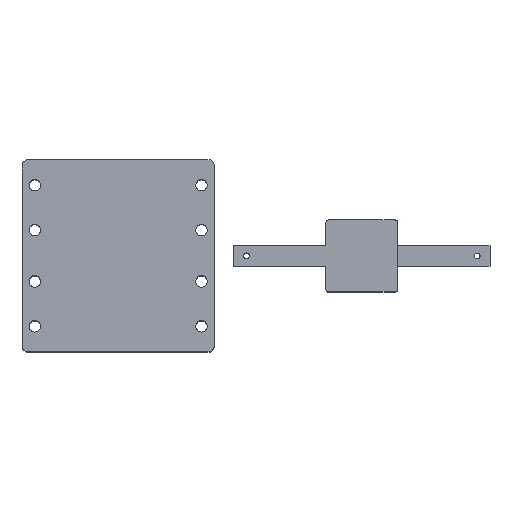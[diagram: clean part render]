
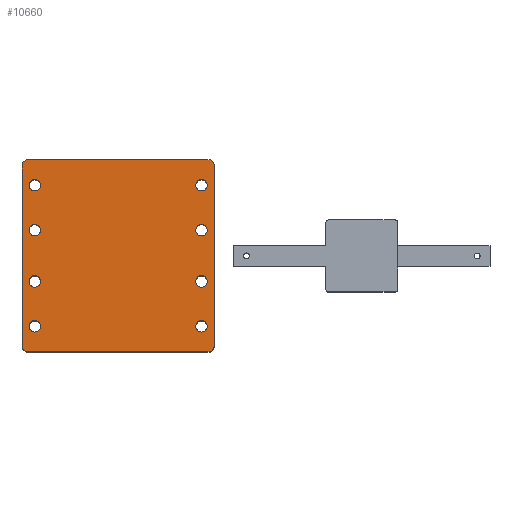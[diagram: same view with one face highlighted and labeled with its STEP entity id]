
A CAD part, top view. The second image highlights one B-rep face of the part: STEP entity #10660.
In plain terms, the highlighted planar face has unit normal (0, 0, 1).
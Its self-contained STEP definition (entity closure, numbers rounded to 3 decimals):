
#10400 = VERTEX_POINT('',#10401);
#10401 = CARTESIAN_POINT('',(-70.,-75.,12.));
#10407 = EDGE_CURVE('',#10400,#10408,#10410,.T.);
#10408 = VERTEX_POINT('',#10409);
#10409 = CARTESIAN_POINT('',(70.,-75.,12.));
#10410 = LINE('',#10411,#10412);
#10411 = CARTESIAN_POINT('',(-70.,-75.,12.));
#10412 = VECTOR('',#10413,1.);
#10413 = DIRECTION('',(1.,0.,0.));
#10440 = VERTEX_POINT('',#10441);
#10441 = CARTESIAN_POINT('',(-75.,-70.,12.));
#10447 = EDGE_CURVE('',#10440,#10400,#10448,.T.);
#10448 = CIRCLE('',#10449,5.);
#10449 = AXIS2_PLACEMENT_3D('',#10450,#10451,#10452);
#10450 = CARTESIAN_POINT('',(-70.,-70.,12.));
#10451 = DIRECTION('',(0.,0.,1.));
#10452 = DIRECTION('',(1.,0.,0.));
#10471 = EDGE_CURVE('',#10408,#10472,#10474,.T.);
#10472 = VERTEX_POINT('',#10473);
#10473 = CARTESIAN_POINT('',(75.,-70.,12.));
#10474 = CIRCLE('',#10475,5.);
#10475 = AXIS2_PLACEMENT_3D('',#10476,#10477,#10478);
#10476 = CARTESIAN_POINT('',(70.,-70.,12.));
#10477 = DIRECTION('',(0.,0.,1.));
#10478 = DIRECTION('',(1.,0.,0.));
#10660 = ADVANCED_FACE('',(#10661,#10706,#10717,#10728,#10739,#10750,
    #10761,#10772,#10783),#10794,.T.);
#10661 = FACE_BOUND('',#10662,.T.);
#10662 = EDGE_LOOP('',(#10663,#10664,#10665,#10673,#10682,#10690,#10699,
    #10705));
#10663 = ORIENTED_EDGE('',*,*,#10407,.T.);
#10664 = ORIENTED_EDGE('',*,*,#10471,.T.);
#10665 = ORIENTED_EDGE('',*,*,#10666,.T.);
#10666 = EDGE_CURVE('',#10472,#10667,#10669,.T.);
#10667 = VERTEX_POINT('',#10668);
#10668 = CARTESIAN_POINT('',(75.,70.,12.));
#10669 = LINE('',#10670,#10671);
#10670 = CARTESIAN_POINT('',(75.,-70.,12.));
#10671 = VECTOR('',#10672,1.);
#10672 = DIRECTION('',(0.,1.,0.));
#10673 = ORIENTED_EDGE('',*,*,#10674,.T.);
#10674 = EDGE_CURVE('',#10667,#10675,#10677,.T.);
#10675 = VERTEX_POINT('',#10676);
#10676 = CARTESIAN_POINT('',(70.,75.,12.));
#10677 = CIRCLE('',#10678,5.);
#10678 = AXIS2_PLACEMENT_3D('',#10679,#10680,#10681);
#10679 = CARTESIAN_POINT('',(70.,70.,12.));
#10680 = DIRECTION('',(0.,0.,1.));
#10681 = DIRECTION('',(1.,0.,0.));
#10682 = ORIENTED_EDGE('',*,*,#10683,.T.);
#10683 = EDGE_CURVE('',#10675,#10684,#10686,.T.);
#10684 = VERTEX_POINT('',#10685);
#10685 = CARTESIAN_POINT('',(-70.,75.,12.));
#10686 = LINE('',#10687,#10688);
#10687 = CARTESIAN_POINT('',(70.,75.,12.));
#10688 = VECTOR('',#10689,1.);
#10689 = DIRECTION('',(-1.,0.,0.));
#10690 = ORIENTED_EDGE('',*,*,#10691,.T.);
#10691 = EDGE_CURVE('',#10684,#10692,#10694,.T.);
#10692 = VERTEX_POINT('',#10693);
#10693 = CARTESIAN_POINT('',(-75.,70.,12.));
#10694 = CIRCLE('',#10695,5.);
#10695 = AXIS2_PLACEMENT_3D('',#10696,#10697,#10698);
#10696 = CARTESIAN_POINT('',(-70.,70.,12.));
#10697 = DIRECTION('',(0.,0.,1.));
#10698 = DIRECTION('',(1.,0.,0.));
#10699 = ORIENTED_EDGE('',*,*,#10700,.T.);
#10700 = EDGE_CURVE('',#10692,#10440,#10701,.T.);
#10701 = LINE('',#10702,#10703);
#10702 = CARTESIAN_POINT('',(-75.,70.,12.));
#10703 = VECTOR('',#10704,1.);
#10704 = DIRECTION('',(0.,-1.,0.));
#10705 = ORIENTED_EDGE('',*,*,#10447,.T.);
#10706 = FACE_BOUND('',#10707,.T.);
#10707 = EDGE_LOOP('',(#10708));
#10708 = ORIENTED_EDGE('',*,*,#10709,.F.);
#10709 = EDGE_CURVE('',#10710,#10710,#10712,.T.);
#10710 = VERTEX_POINT('',#10711);
#10711 = CARTESIAN_POINT('',(-60.5,-55.,12.));
#10712 = CIRCLE('',#10713,4.5);
#10713 = AXIS2_PLACEMENT_3D('',#10714,#10715,#10716);
#10714 = CARTESIAN_POINT('',(-65.,-55.,12.));
#10715 = DIRECTION('',(0.,0.,1.));
#10716 = DIRECTION('',(1.,0.,0.));
#10717 = FACE_BOUND('',#10718,.T.);
#10718 = EDGE_LOOP('',(#10719));
#10719 = ORIENTED_EDGE('',*,*,#10720,.F.);
#10720 = EDGE_CURVE('',#10721,#10721,#10723,.T.);
#10721 = VERTEX_POINT('',#10722);
#10722 = CARTESIAN_POINT('',(-60.5,-20.,12.));
#10723 = CIRCLE('',#10724,4.5);
#10724 = AXIS2_PLACEMENT_3D('',#10725,#10726,#10727);
#10725 = CARTESIAN_POINT('',(-65.,-20.,12.));
#10726 = DIRECTION('',(0.,0.,1.));
#10727 = DIRECTION('',(1.,0.,0.));
#10728 = FACE_BOUND('',#10729,.T.);
#10729 = EDGE_LOOP('',(#10730));
#10730 = ORIENTED_EDGE('',*,*,#10731,.F.);
#10731 = EDGE_CURVE('',#10732,#10732,#10734,.T.);
#10732 = VERTEX_POINT('',#10733);
#10733 = CARTESIAN_POINT('',(69.5,-55.,12.));
#10734 = CIRCLE('',#10735,4.5);
#10735 = AXIS2_PLACEMENT_3D('',#10736,#10737,#10738);
#10736 = CARTESIAN_POINT('',(65.,-55.,12.));
#10737 = DIRECTION('',(0.,0.,1.));
#10738 = DIRECTION('',(1.,0.,0.));
#10739 = FACE_BOUND('',#10740,.T.);
#10740 = EDGE_LOOP('',(#10741));
#10741 = ORIENTED_EDGE('',*,*,#10742,.F.);
#10742 = EDGE_CURVE('',#10743,#10743,#10745,.T.);
#10743 = VERTEX_POINT('',#10744);
#10744 = CARTESIAN_POINT('',(69.5,-20.,12.));
#10745 = CIRCLE('',#10746,4.5);
#10746 = AXIS2_PLACEMENT_3D('',#10747,#10748,#10749);
#10747 = CARTESIAN_POINT('',(65.,-20.,12.));
#10748 = DIRECTION('',(0.,0.,1.));
#10749 = DIRECTION('',(1.,0.,0.));
#10750 = FACE_BOUND('',#10751,.T.);
#10751 = EDGE_LOOP('',(#10752));
#10752 = ORIENTED_EDGE('',*,*,#10753,.F.);
#10753 = EDGE_CURVE('',#10754,#10754,#10756,.T.);
#10754 = VERTEX_POINT('',#10755);
#10755 = CARTESIAN_POINT('',(-60.5,20.,12.));
#10756 = CIRCLE('',#10757,4.5);
#10757 = AXIS2_PLACEMENT_3D('',#10758,#10759,#10760);
#10758 = CARTESIAN_POINT('',(-65.,20.,12.));
#10759 = DIRECTION('',(0.,0.,1.));
#10760 = DIRECTION('',(1.,0.,0.));
#10761 = FACE_BOUND('',#10762,.T.);
#10762 = EDGE_LOOP('',(#10763));
#10763 = ORIENTED_EDGE('',*,*,#10764,.F.);
#10764 = EDGE_CURVE('',#10765,#10765,#10767,.T.);
#10765 = VERTEX_POINT('',#10766);
#10766 = CARTESIAN_POINT('',(-60.5,55.,12.));
#10767 = CIRCLE('',#10768,4.5);
#10768 = AXIS2_PLACEMENT_3D('',#10769,#10770,#10771);
#10769 = CARTESIAN_POINT('',(-65.,55.,12.));
#10770 = DIRECTION('',(0.,0.,1.));
#10771 = DIRECTION('',(1.,0.,0.));
#10772 = FACE_BOUND('',#10773,.T.);
#10773 = EDGE_LOOP('',(#10774));
#10774 = ORIENTED_EDGE('',*,*,#10775,.F.);
#10775 = EDGE_CURVE('',#10776,#10776,#10778,.T.);
#10776 = VERTEX_POINT('',#10777);
#10777 = CARTESIAN_POINT('',(69.5,20.,12.));
#10778 = CIRCLE('',#10779,4.5);
#10779 = AXIS2_PLACEMENT_3D('',#10780,#10781,#10782);
#10780 = CARTESIAN_POINT('',(65.,20.,12.));
#10781 = DIRECTION('',(0.,0.,1.));
#10782 = DIRECTION('',(1.,0.,0.));
#10783 = FACE_BOUND('',#10784,.T.);
#10784 = EDGE_LOOP('',(#10785));
#10785 = ORIENTED_EDGE('',*,*,#10786,.F.);
#10786 = EDGE_CURVE('',#10787,#10787,#10789,.T.);
#10787 = VERTEX_POINT('',#10788);
#10788 = CARTESIAN_POINT('',(69.5,55.,12.));
#10789 = CIRCLE('',#10790,4.5);
#10790 = AXIS2_PLACEMENT_3D('',#10791,#10792,#10793);
#10791 = CARTESIAN_POINT('',(65.,55.,12.));
#10792 = DIRECTION('',(0.,0.,1.));
#10793 = DIRECTION('',(1.,0.,0.));
#10794 = PLANE('',#10795);
#10795 = AXIS2_PLACEMENT_3D('',#10796,#10797,#10798);
#10796 = CARTESIAN_POINT('',(0.,0.,12.));
#10797 = DIRECTION('',(0.,0.,1.));
#10798 = DIRECTION('',(1.,0.,0.));
